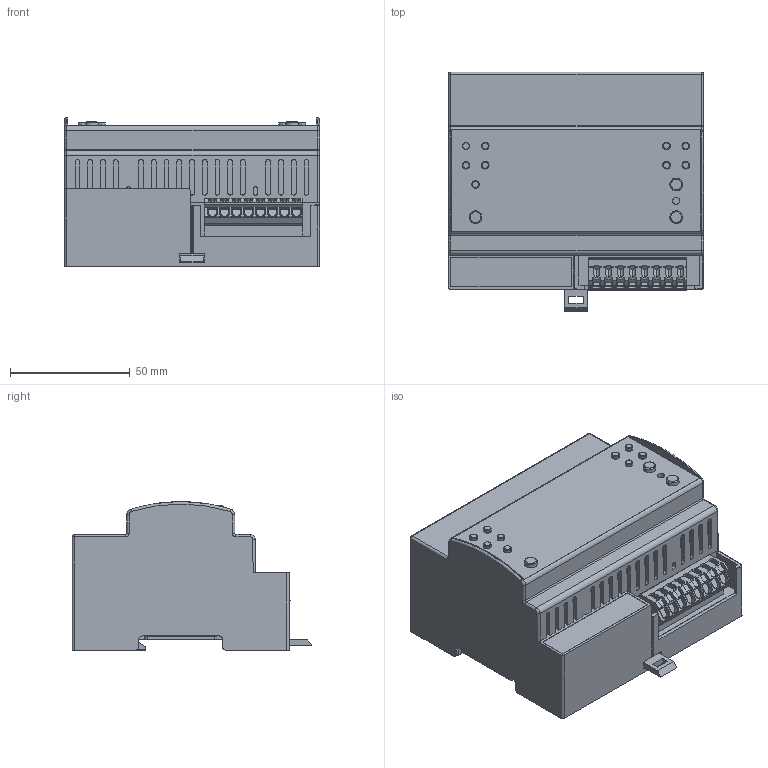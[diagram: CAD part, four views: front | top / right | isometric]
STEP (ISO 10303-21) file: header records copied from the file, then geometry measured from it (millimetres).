
FILE_DESCRIPTION (( 'STEP AP214' ), '1' );
FILE_NAME ('4186077swm000.step', '2020-01-24T14:10:15', ( 'OSRAM' ), ( 'OSRAM' ), 'SwSTEP 2.0', 'SolidWorks 2017', '' );
FILE_SCHEMA (( 'AUTOMOTIVE_DESIGN' ));
Length unit declared in the file: millimetre
Products named in the file (1): 4186077swm000
Bounding box: 106.31 x 99.87 x 62 mm (x, y, z)
Volume: 459507.1 mm3; surface area: 49659.3 mm2
Topology: 1 solids, 1 shells, 1097 faces, 2913 edges, 1880 vertices
Faces by surface type: plane 619, cylinder 384, bspline 47, cone 46, torus 1
Entity records: 47955 total; most frequent: CARTESIAN_POINT 9515, ORIENTED_EDGE 5800, DIRECTION 5324, EDGE_CURVE 2900, VECTOR 1960, LINE 1960, VERTEX_POINT 1880, AXIS2_PLACEMENT_3D 1682
